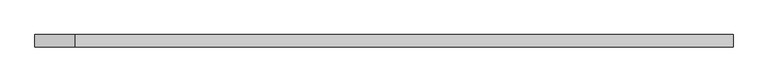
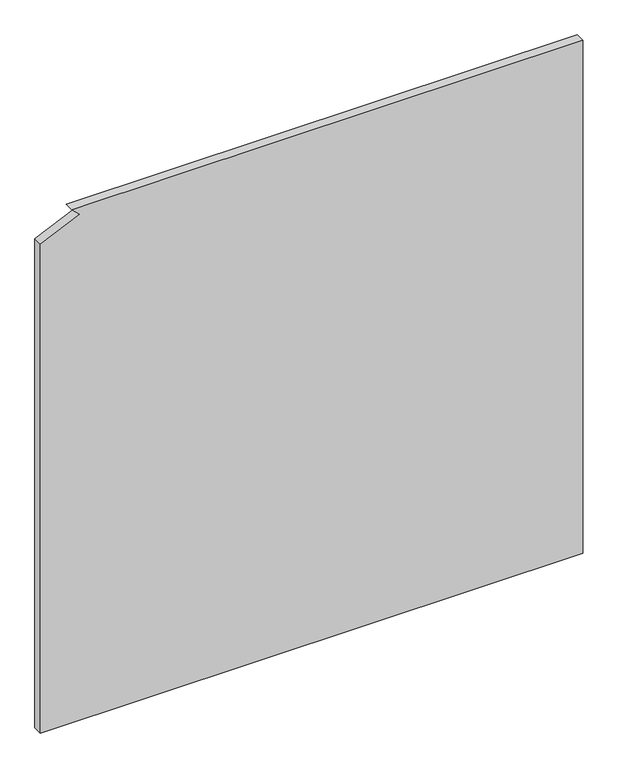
"""IFC4 building model written with IfcOpenShell, lengths in millimetres: plate geometry, Системная панель : С остеклением."""

from ifc_helpers import new_model, si_unit, frame, origin, place, context, project, spatial, polyline, outline, extrude, source, transform, mapped, element, save


def plate_256d3761(model_context):
    return source(origin(), model_context, "Body", "SweptSolid", [
        extrude(outline(polyline([(0.0, -712.5), (0.0, 712.5), (1425.0, 712.5), (1425.0, -630.0471698), (1404.4550514, -609.4156974), (1357.7587433, -712.5), (0.0, -712.5)])), frame((0.0, 24.5, 0.0), z_axis=(0.0, 1.0, 0.0), x_axis=(0.0, 0.0, 1.0)), (0.0, 0.0, 1.0), 25.0),
    ])


if __name__ == "__main__":
    model = new_model("IFC4")
    model_context = context("Model", 3, world=origin())
    ifc_project = project(units=[si_unit("LENGTHUNIT", "METRE", prefix="MILLI")], contexts=[model_context])
    site = spatial("IfcSite", under=ifc_project)
    building = spatial("IfcBuilding", under=site)
    placement = place(None, origin())
    plate_shape = plate_256d3761(model_context)
    element("IfcPlate", 1, ObjectType="Системная панель : С остеклением", at=placement, inside=building, context=model_context, shape_type="MappedRepresentation", body=[
        mapped(plate_shape, transform((0.0, 0.0, 0.0), x_axis=(1.0, 0.0, 0.0), y_axis=(0.0, 1.0, 0.0), z_axis=(0.0, 0.0, 1.0))),
    ])
    save(model, "model.ifc")
